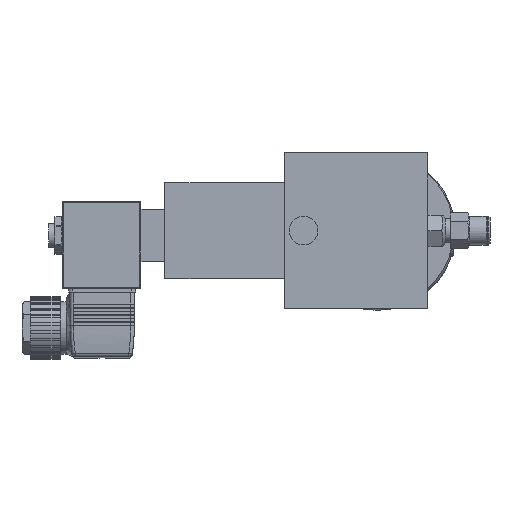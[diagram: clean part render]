
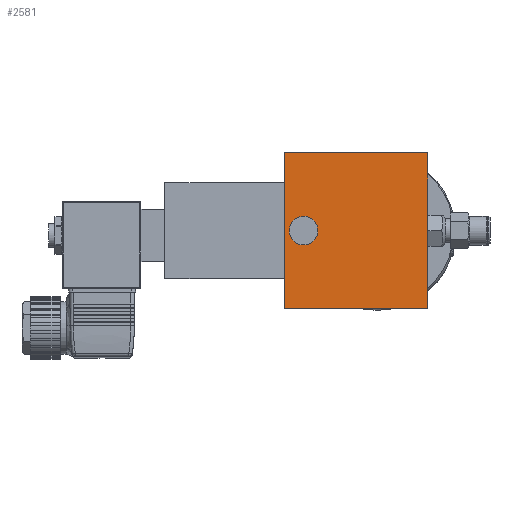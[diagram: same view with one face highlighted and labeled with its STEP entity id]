
A CAD part, top view. The second image highlights one B-rep face of the part: STEP entity #2581.
In plain terms, the highlighted planar face has unit normal (0, 0, 1) as drawn and (0, 1, 0) by its records, which use the part's own axes.
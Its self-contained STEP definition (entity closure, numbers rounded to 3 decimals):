
#1086 = ORIENTED_EDGE ( 'NONE', *, *, #13895, .F. ) ;
#2581 = ADVANCED_FACE ( 'NONE', ( #7054, #27849 ), #15677, .F. ) ;
#3218 = CARTESIAN_POINT ( 'NONE',  ( 30., 25., 32.5 ) ) ;
#4602 = CARTESIAN_POINT ( 'NONE',  ( -30., 25., -32.5 ) ) ;
#4809 = VERTEX_POINT ( 'NONE', #19555 ) ;
#7023 = ORIENTED_EDGE ( 'NONE', *, *, #21146, .F. ) ;
#7054 = FACE_BOUND ( 'NONE', #22777, .T. ) ;
#7625 = CIRCLE ( 'NONE', #33934, 6. ) ;
#7759 = DIRECTION ( 'NONE',  ( 0., 0., -1. ) ) ;
#7923 = LINE ( 'NONE', #4602, #21501 ) ;
#8778 = CARTESIAN_POINT ( 'NONE',  ( -30., 25., 32.5 ) ) ;
#9691 = VECTOR ( 'NONE', #35435, 1000. ) ;
#10314 = DIRECTION ( 'NONE',  ( 0., 1., 0. ) ) ;
#11480 = ORIENTED_EDGE ( 'NONE', *, *, #16376, .T. ) ;
#12124 = CARTESIAN_POINT ( 'NONE',  ( -30., 25., 32.5 ) ) ;
#13895 = EDGE_CURVE ( 'NONE', #24209, #19760, #23259, .T. ) ;
#15677 = PLANE ( 'NONE',  #17403 ) ;
#16376 = EDGE_CURVE ( 'NONE', #16634, #4809, #18094, .T. ) ;
#16634 = VERTEX_POINT ( 'NONE', #32564 ) ;
#16724 = DIRECTION ( 'NONE',  ( -1., 0., 0. ) ) ;
#17403 = AXIS2_PLACEMENT_3D ( 'NONE', #24676, #18253, #30215 ) ;
#18094 = LINE ( 'NONE', #3218, #32535 ) ;
#18253 = DIRECTION ( 'NONE',  ( 0., -1., 0. ) ) ;
#19555 = CARTESIAN_POINT ( 'NONE',  ( 30., 25., -32.5 ) ) ;
#19760 = VERTEX_POINT ( 'NONE', #21548 ) ;
#20710 = DIRECTION ( 'NONE',  ( 0., 0., -1. ) ) ;
#21146 = EDGE_CURVE ( 'NONE', #35428, #35428, #7625, .T. ) ;
#21501 = VECTOR ( 'NONE', #16724, 1000. ) ;
#21548 = CARTESIAN_POINT ( 'NONE',  ( -30., 25., -32.5 ) ) ;
#22667 = ORIENTED_EDGE ( 'NONE', *, *, #24642, .T. ) ;
#22777 = EDGE_LOOP ( 'NONE', ( #7023 ) ) ;
#22910 = ORIENTED_EDGE ( 'NONE', *, *, #27490, .F. ) ;
#23057 = CARTESIAN_POINT ( 'NONE',  ( -22., 25., -6. ) ) ;
#23259 = LINE ( 'NONE', #8778, #28547 ) ;
#24209 = VERTEX_POINT ( 'NONE', #32895 ) ;
#24520 = DIRECTION ( 'NONE',  ( 0., 0., -1. ) ) ;
#24642 = EDGE_CURVE ( 'NONE', #4809, #19760, #7923, .T. ) ;
#24676 = CARTESIAN_POINT ( 'NONE',  ( -30., 25., 32.5 ) ) ;
#27490 = EDGE_CURVE ( 'NONE', #16634, #24209, #38793, .T. ) ;
#27849 = FACE_OUTER_BOUND ( 'NONE', #27910, .T. ) ;
#27910 = EDGE_LOOP ( 'NONE', ( #22667, #1086, #22910, #11480 ) ) ;
#28547 = VECTOR ( 'NONE', #20710, 1000. ) ;
#30215 = DIRECTION ( 'NONE',  ( 0., 0., -1. ) ) ;
#31293 = CARTESIAN_POINT ( 'NONE',  ( -22., 25., 0. ) ) ;
#32535 = VECTOR ( 'NONE', #24520, 1000. ) ;
#32564 = CARTESIAN_POINT ( 'NONE',  ( 30., 25., 32.5 ) ) ;
#32895 = CARTESIAN_POINT ( 'NONE',  ( -30., 25., 32.5 ) ) ;
#33934 = AXIS2_PLACEMENT_3D ( 'NONE', #31293, #10314, #7759 ) ;
#35428 = VERTEX_POINT ( 'NONE', #23057 ) ;
#35435 = DIRECTION ( 'NONE',  ( -1., 0., 0. ) ) ;
#38793 = LINE ( 'NONE', #12124, #9691 ) ;
